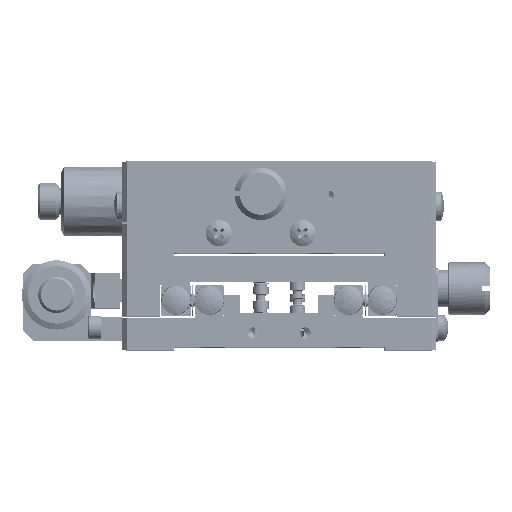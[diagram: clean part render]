
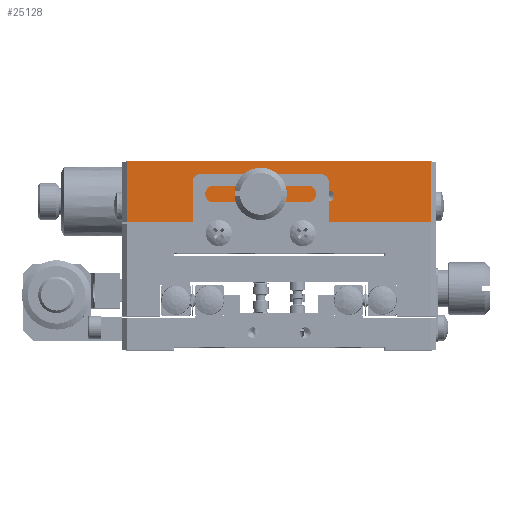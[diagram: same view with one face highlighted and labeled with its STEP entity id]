
A CAD part, top view. The second image highlights one B-rep face of the part: STEP entity #25128.
In plain terms, the highlighted planar face has unit normal (0, 0, 1).
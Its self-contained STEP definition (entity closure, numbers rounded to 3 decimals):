
#3987 = LINE ( 'NONE', #31011, #71616 ) ;
#8712 = EDGE_CURVE ( 'NONE', #77021, #95106, #49692, .T. ) ;
#15896 = EDGE_CURVE ( 'NONE', #20347, #20347, #151103, .T. ) ;
#16957 = CARTESIAN_POINT ( 'NONE',  ( -26.312, 91.403, 68.814 ) ) ;
#20139 = CARTESIAN_POINT ( 'NONE',  ( -13.537, 91.003, 68.814 ) ) ;
#20347 = VERTEX_POINT ( 'NONE', #130134 ) ;
#23194 = ORIENTED_EDGE ( 'NONE', *, *, #43991, .T. ) ;
#25128 = ADVANCED_FACE ( 'NONE', ( #80286, #49733, #131623, #146884 ), #25399, .F. ) ;
#25399 = PLANE ( 'NONE',  #110613 ) ;
#29749 = CIRCLE ( 'NONE', #49920, 1.25 ) ;
#30883 = EDGE_CURVE ( 'NONE', #171364, #171364, #62587, .T. ) ;
#31011 = CARTESIAN_POINT ( 'NONE',  ( 4.938, 97.603, 68.814 ) ) ;
#34910 = ORIENTED_EDGE ( 'NONE', *, *, #15896, .F. ) ;
#35382 = DIRECTION ( 'NONE',  ( 1., 0., 0. ) ) ;
#37623 = VECTOR ( 'NONE', #56349, 1000. ) ;
#38735 = ORIENTED_EDGE ( 'NONE', *, *, #136617, .F. ) ;
#42832 = LINE ( 'NONE', #151707, #37623 ) ;
#43991 = EDGE_CURVE ( 'NONE', #164855, #53331, #3987, .T. ) ;
#47930 = DIRECTION ( 'NONE',  ( 0., -1., 0. ) ) ;
#49692 = LINE ( 'NONE', #60567, #92691 ) ;
#49733 = FACE_BOUND ( 'NONE', #98619, .T. ) ;
#49920 = AXIS2_PLACEMENT_3D ( 'NONE', #115508, #157782, #35382 ) ;
#51528 = CARTESIAN_POINT ( 'NONE',  ( -54.062, 97.603, 68.814 ) ) ;
#53331 = VERTEX_POINT ( 'NONE', #155071 ) ;
#56349 = DIRECTION ( 'NONE',  ( 1., 0., 0. ) ) ;
#60567 = CARTESIAN_POINT ( 'NONE',  ( -53.062, 97.603, 68.814 ) ) ;
#62368 = DIRECTION ( 'NONE',  ( 1., 0., 0. ) ) ;
#62587 = CIRCLE ( 'NONE', #128605, 1.025 ) ;
#64372 = EDGE_CURVE ( 'NONE', #95106, #164855, #136802, .T. ) ;
#69614 = EDGE_LOOP ( 'NONE', ( #76797, #80001, #118303, #23194 ) ) ;
#71316 = EDGE_CURVE ( 'NONE', #77021, #53331, #42832, .T. ) ;
#71616 = VECTOR ( 'NONE', #151595, 1000. ) ;
#76797 = ORIENTED_EDGE ( 'NONE', *, *, #71316, .F. ) ;
#77021 = VERTEX_POINT ( 'NONE', #97599 ) ;
#79853 = EDGE_LOOP ( 'NONE', ( #38735 ) ) ;
#80001 = ORIENTED_EDGE ( 'NONE', *, *, #8712, .T. ) ;
#80286 = FACE_BOUND ( 'NONE', #125168, .T. ) ;
#84572 = DIRECTION ( 'NONE',  ( 1., 0., 0. ) ) ;
#92691 = VECTOR ( 'NONE', #47930, 1000. ) ;
#95106 = VERTEX_POINT ( 'NONE', #111613 ) ;
#97599 = CARTESIAN_POINT ( 'NONE',  ( -53.062, 97.603, 68.814 ) ) ;
#98619 = EDGE_LOOP ( 'NONE', ( #34910 ) ) ;
#106360 = DIRECTION ( 'NONE',  ( -1., 0., 0. ) ) ;
#110613 = AXIS2_PLACEMENT_3D ( 'NONE', #51528, #133388, #106360 ) ;
#111613 = CARTESIAN_POINT ( 'NONE',  ( -53.062, 86.003, 68.814 ) ) ;
#113349 = DIRECTION ( 'NONE',  ( 0., 0., 1. ) ) ;
#113871 = AXIS2_PLACEMENT_3D ( 'NONE', #170055, #113349, #141278 ) ;
#115508 = CARTESIAN_POINT ( 'NONE',  ( -27.562, 91.403, 68.814 ) ) ;
#118303 = ORIENTED_EDGE ( 'NONE', *, *, #64372, .T. ) ;
#124345 = ORIENTED_EDGE ( 'NONE', *, *, #30883, .F. ) ;
#125168 = EDGE_LOOP ( 'NONE', ( #124345 ) ) ;
#126714 = VERTEX_POINT ( 'NONE', #16957 ) ;
#128605 = AXIS2_PLACEMENT_3D ( 'NONE', #155970, #159507, #62368 ) ;
#129487 = CARTESIAN_POINT ( 'NONE',  ( 4.938, 86.003, 68.814 ) ) ;
#130134 = CARTESIAN_POINT ( 'NONE',  ( -29.537, 91.003, 68.814 ) ) ;
#131623 = FACE_BOUND ( 'NONE', #79853, .T. ) ;
#133388 = DIRECTION ( 'NONE',  ( 0., 0., -1. ) ) ;
#136617 = EDGE_CURVE ( 'NONE', #126714, #126714, #29749, .T. ) ;
#136802 = LINE ( 'NONE', #138573, #140702 ) ;
#138573 = CARTESIAN_POINT ( 'NONE',  ( -54.062, 86.003, 68.814 ) ) ;
#140702 = VECTOR ( 'NONE', #84572, 1000. ) ;
#141278 = DIRECTION ( 'NONE',  ( 1., 0., 0. ) ) ;
#146884 = FACE_OUTER_BOUND ( 'NONE', #69614, .T. ) ;
#151103 = CIRCLE ( 'NONE', #113871, 1.025 ) ;
#151595 = DIRECTION ( 'NONE',  ( 0., 1., 0. ) ) ;
#151707 = CARTESIAN_POINT ( 'NONE',  ( -54.062, 97.603, 68.814 ) ) ;
#155071 = CARTESIAN_POINT ( 'NONE',  ( 4.938, 97.603, 68.814 ) ) ;
#155970 = CARTESIAN_POINT ( 'NONE',  ( -14.562, 91.003, 68.814 ) ) ;
#157782 = DIRECTION ( 'NONE',  ( 0., 0., 1. ) ) ;
#159507 = DIRECTION ( 'NONE',  ( 0., 0., 1. ) ) ;
#164855 = VERTEX_POINT ( 'NONE', #129487 ) ;
#170055 = CARTESIAN_POINT ( 'NONE',  ( -30.562, 91.003, 68.814 ) ) ;
#171364 = VERTEX_POINT ( 'NONE', #20139 ) ;
